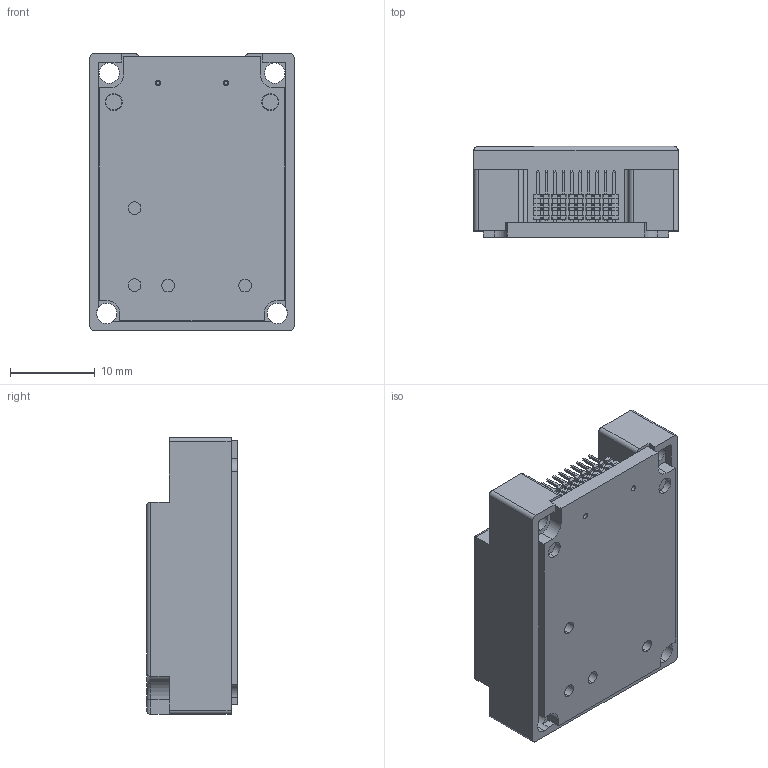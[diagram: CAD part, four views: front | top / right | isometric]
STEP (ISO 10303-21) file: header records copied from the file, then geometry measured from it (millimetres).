
FILE_DESCRIPTION (( 'STEP AP203' ), '1' );
FILE_NAME ('ADiS16334 model.STEP', '2011-05-16T14:38:52', ( 'Roy Buck' ), ( 'Analog Devices Inc.' ), 'SwSTEP 2.0', 'SolidWorks 2009', '' );
FILE_SCHEMA (( 'CONFIG_CONTROL_DESIGN' ));
Length unit declared in the file: millimetre
Products named in the file (18): ADiS16334 model; c3dMW-T_FINAL; c3dMW-B2; C3dMWSM-AX-H_SM-A7-H; GS09960 ADiS16334 Housing 102910; smt wide  Horizontal l sensor bd 050710 wider; MW-10-03-X-D-186-065-EP-A; c3dMW-B_Formula; c3dMW-T
Assembly tree (27 placements, depth 3):
  ADiS16334 model
    smt wide  Horizontal l sensor bd 050710 wider
    MW-10-03-X-D-186-065-EP-A
      c3dMW-T_FINAL
      c3dMW-T  x10
      c3dMW-T_FINAL
      c3dMW-T_FINAL
      c3dMW-T_FINAL
      C3dMWSM-AX-H_SM-A7-H  x2
      c3dMW-T_FINAL
      c3dMW-T_FINAL
      c3dMW-B_Formula
      c3dMW-B2
      c3dMW-T_FINAL
      c3dMW-T_FINAL
      c3dMW-T_FINAL
      c3dMW-T_FINAL
    GS09960 ADiS16334 Housing 102910
Bounding box: 24.15 x 10.75 x 32.7 mm (x, y, z)
Volume: 3633.6 mm3; surface area: 5615.1 mm2
Topology: 62 solids, 62 shells, 1657 faces, 4118 edges, 2574 vertices
Faces by surface type: plane 1453, cylinder 142, cone 32, bspline 20, sphere 6, torus 4
Entity records: 46358 total; most frequent: CARTESIAN_POINT 8126, ORIENTED_EDGE 7540, DIRECTION 7022, EDGE_CURVE 3770, LINE 3478, VECTOR 3478, VERTEX_POINT 2372, AXIS2_PLACEMENT_3D 1772
